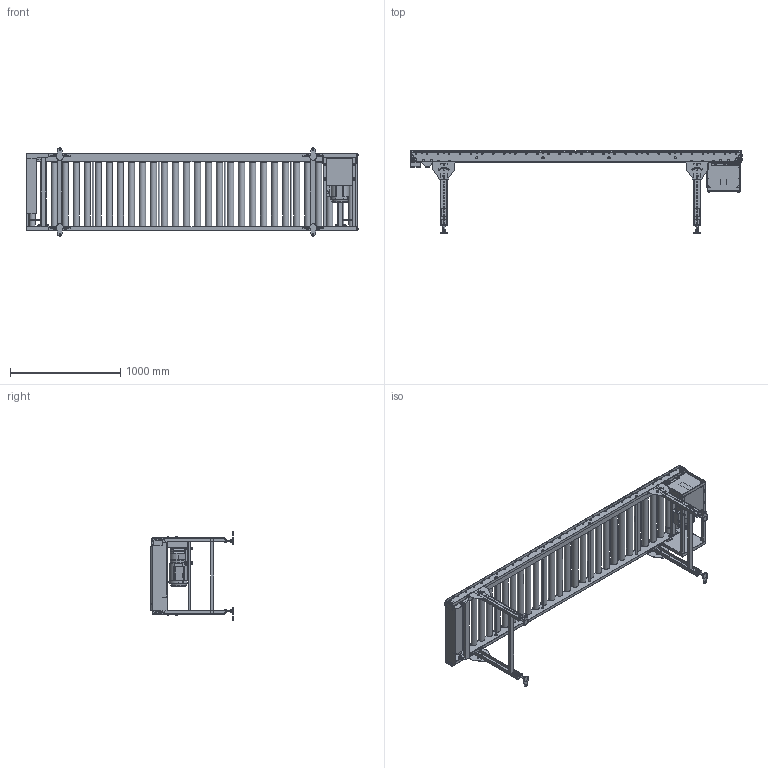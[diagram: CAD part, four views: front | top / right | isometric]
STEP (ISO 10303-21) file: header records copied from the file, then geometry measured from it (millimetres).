
FILE_DESCRIPTION( (''), '2;1');
FILE_NAME ('WEB-MCC1S・MCC2S-57-630-100-300-L.stp','2026-06-19T10:43:42',(''),(''),'spGate 21.9.5 (****-****-****-****)','','');
FILE_SCHEMA (('AUTOMOTIVE_DESIGN'));
Length unit declared in the file: millimetre
Products named in the file (34): WEB-MCC1S_MCC2S-57-630-100-300-L; TEMP_X_T-prt0; TEMP_X_T-prt1; TEMP_X_T-prt2; TEMP_X_T-prt3; TEMP_X_T-prt4; TEMP_X_T-prt5; TEMP_X_T-prt6; TEMP_X_T-prt7; TEMP_X_T-prt8; TEMP_X_T-prt9; TEMP_X_T-prt10; TEMP_X_T-prt11; TEMP_X_T-prt12; TEMP_X_T-prt13; TEMP_X_T-prt14; TEMP_X_T-prt15; TEMP_X_T-prt16; TEMP_X_T-prt17; TEMP_X_T-prt18; TEMP_X_T-prt19; TEMP_X_T-prt20; TEMP_X_T-prt21; TEMP_X_T-prt22; TEMP_X_T-prt23; TEMP_X_T-prt24; TEMP_X_T-prt25; TEMP_X_T-prt26; TEMP_X_T-prt27; TEMP_X_T-prt28; TEMP_X_T-prt29; TEMP_X_T-prt30; TEMP_X_T-prt31; TEMP_X_T-prt32
Assembly tree (33 placements, depth 2):
  WEB-MCC1S_MCC2S-57-630-100-300-L
    TEMP_X_T-prt0
    TEMP_X_T-prt1
    TEMP_X_T-prt2
    TEMP_X_T-prt3
    TEMP_X_T-prt4
    TEMP_X_T-prt5
    TEMP_X_T-prt6
    TEMP_X_T-prt7
    TEMP_X_T-prt8
    TEMP_X_T-prt9
    TEMP_X_T-prt10
    TEMP_X_T-prt11
    TEMP_X_T-prt12
    TEMP_X_T-prt13
    TEMP_X_T-prt14
    TEMP_X_T-prt15
    TEMP_X_T-prt16
    TEMP_X_T-prt17
    TEMP_X_T-prt18
    TEMP_X_T-prt19
    TEMP_X_T-prt20
    TEMP_X_T-prt21
    TEMP_X_T-prt22
    TEMP_X_T-prt23
    TEMP_X_T-prt24
    TEMP_X_T-prt25
    TEMP_X_T-prt26
    TEMP_X_T-prt27
    TEMP_X_T-prt28
    TEMP_X_T-prt29
    TEMP_X_T-prt30
    TEMP_X_T-prt31
    TEMP_X_T-prt32
Bounding box: 3013.4 x 750 x 799.4 mm (x, y, z)
Volume: 78500372.1 mm3; surface area: 8203312.7 mm2
Topology: 33 solids, 33 shells, 3174 faces, 8108 edges, 5345 vertices
Faces by surface type: plane 2339, cylinder 763, bspline 60, sphere 12
Full cylindrical faces by diameter (mm): 5 x22, 5.1 x11, 8 x8, 9.2 x11, 10 x22, 11.8 x11, 12 x30, 13.8 x4, 16 x30, 17 x8, 21 x12, 24 x2, 47 x30, 57 x34
Entity records: 165163 total; most frequent: CARTESIAN_POINT 19583, DIRECTION 16519, ORIENTED_EDGE 16194, COLOUR_RGB 11304, PRESENTATION_STYLE_ASSIGNMENT 11304, STYLED_ITEM 11304, EDGE_CURVE 8097, DRAUGHTING_PRE_DEFINED_CURVE_FONT 8097
